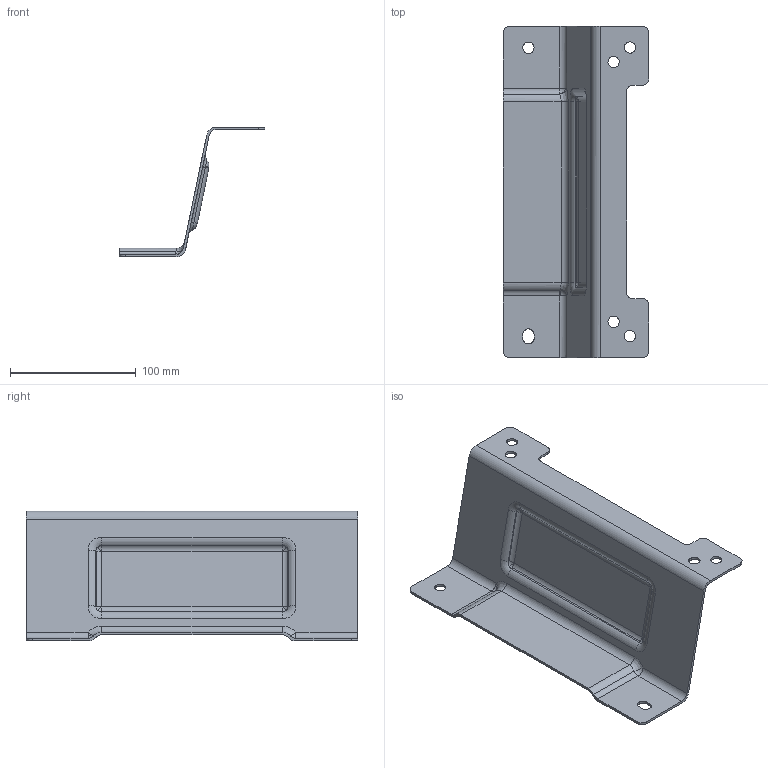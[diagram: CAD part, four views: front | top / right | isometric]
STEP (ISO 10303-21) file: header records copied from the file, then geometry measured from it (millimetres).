
FILE_DESCRIPTION(('CATIA V5 STEP Exchange'),'2;1');
FILE_NAME('F:\福田A6\1-数据\6-冻结数据\第四批\第四批\SHT0016014-宽车主驾驶底部支架焊接总成\SHT0016145-宽车主驾驶前侧钣金\SHT0016145.stp','2024-08-27T08:06:53+00:00',('none'),('none'),'CATIA Version 5 Release 20 GA (IN-10)','CATIA V5 STEP AP203','none');
FILE_SCHEMA(('CONFIG_CONTROL_DESIGN'));
Length unit declared in the file: millimetre
Products named in the file (1): SHT0016145
Bounding box: 116.02 x 264 x 103.5 mm (x, y, z)
Volume: 96328.4 mm3; surface area: 98558 mm2
Topology: 1 solids, 1 shells, 117 faces, 311 edges, 176 vertices
Faces by surface type: cylinder 61, plane 22, sphere 22, torus 8, bspline 4
Entity records: 3836 total; most frequent: CARTESIAN_POINT 1174, ORIENTED_EDGE 578, DIRECTION 449, EDGE_CURVE 289, AXIS2_PLACEMENT_3D 226, VERTEX_POINT 176, EDGE_LOOP 131, CIRCLE 124
